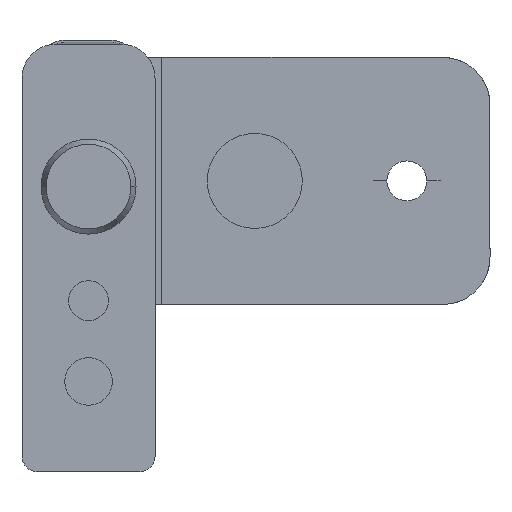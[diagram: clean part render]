
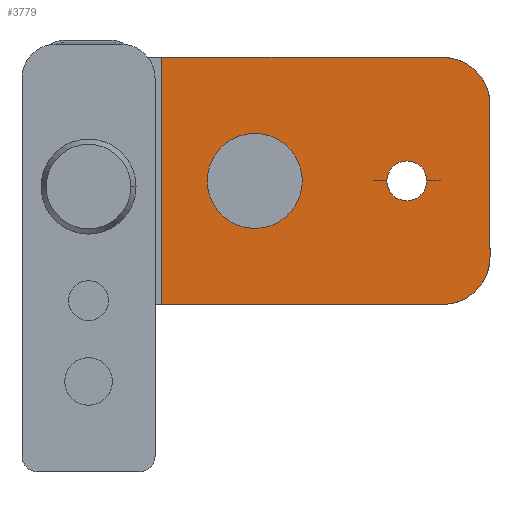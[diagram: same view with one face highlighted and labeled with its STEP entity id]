
A CAD part, front view. The second image highlights one B-rep face of the part: STEP entity #3779.
In plain terms, the highlighted planar face has unit normal (0, -1, 0).
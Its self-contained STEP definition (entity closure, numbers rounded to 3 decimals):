
#152 = VERTEX_POINT ( 'NONE', #1148 ) ;
#160 = VERTEX_POINT ( 'NONE', #1156 ) ;
#167 = VERTEX_POINT ( 'NONE', #1163 ) ;
#176 = VERTEX_POINT ( 'NONE', #957 ) ;
#189 = VERTEX_POINT ( 'NONE', #970 ) ;
#201 = CARTESIAN_POINT ( 'NONE',  ( 42.25, 447., 13.6 ) ) ;
#202 = DIRECTION ( 'NONE',  ( 0., 0., -1. ) ) ;
#473 = CARTESIAN_POINT ( 'NONE',  ( 33.5, 447., 0.6 ) ) ;
#474 = DIRECTION ( 'NONE',  ( 0., -1., 0. ) ) ;
#475 = DIRECTION ( 'NONE',  ( 1., 0., 0. ) ) ;
#476 = CARTESIAN_POINT ( 'NONE',  ( 37.25, 447., 8.6 ) ) ;
#477 = DIRECTION ( 'NONE',  ( 0., 1., 0. ) ) ;
#478 = DIRECTION ( 'NONE',  ( 1., 0., 0. ) ) ;
#479 = CARTESIAN_POINT ( 'NONE',  ( 7.7, 447., 13.6 ) ) ;
#480 = DIRECTION ( 'NONE',  ( 0., 0., -1. ) ) ;
#481 = CARTESIAN_POINT ( 'NONE',  ( 42.25, 447., -12.4 ) ) ;
#482 = DIRECTION ( 'NONE',  ( -1., 0., 0. ) ) ;
#530 = CARTESIAN_POINT ( 'NONE',  ( 33.5, 447., 0.6 ) ) ;
#531 = DIRECTION ( 'NONE',  ( 0., -1., 0. ) ) ;
#532 = DIRECTION ( 'NONE',  ( 1., 0., 0. ) ) ;
#957 = CARTESIAN_POINT ( 'NONE',  ( 7.7, 447., 13.6 ) ) ;
#970 = CARTESIAN_POINT ( 'NONE',  ( 37.25, 447., 13.6 ) ) ;
#1029 = VECTOR ( 'NONE', #482, 1000. ) ;
#1030 = LINE ( 'NONE', #481, #1029 ) ;
#1031 = VECTOR ( 'NONE', #480, 1000. ) ;
#1032 = CIRCLE ( 'NONE', #2633, 5. ) ;
#1033 = LINE ( 'NONE', #479, #1031 ) ;
#1034 = CIRCLE ( 'NONE', #2632, 2.1 ) ;
#1038 = CIRCLE ( 'NONE', #2631, 2.1 ) ;
#1148 = CARTESIAN_POINT ( 'NONE',  ( 42.25, 447., 8.6 ) ) ;
#1156 = CARTESIAN_POINT ( 'NONE',  ( 42.25, 447., -7.4 ) ) ;
#1163 = CARTESIAN_POINT ( 'NONE',  ( 7.7, 447., -12.4 ) ) ;
#1259 = EDGE_CURVE ( 'NONE', #1602, #1487, #1038, .T. ) ;
#1313 = EDGE_CURVE ( 'NONE', #1487, #1602, #1034, .T. ) ;
#1314 = EDGE_CURVE ( 'NONE', #189, #152, #1032, .T. ) ;
#1315 = EDGE_CURVE ( 'NONE', #176, #167, #1033, .T. ) ;
#1316 = EDGE_CURVE ( 'NONE', #3344, #167, #1030, .T. ) ;
#1487 = VERTEX_POINT ( 'NONE', #4044 ) ;
#1547 = CARTESIAN_POINT ( 'NONE',  ( 37.25, 447., -12.4 ) ) ;
#1602 = VERTEX_POINT ( 'NONE', #4089 ) ;
#1686 = CIRCLE ( 'NONE', #2647, 5. ) ;
#1695 = LINE ( 'NONE', #2579, #1696 ) ;
#1696 = VECTOR ( 'NONE', #2580, 1000. ) ;
#1819 = FACE_BOUND ( 'NONE', #3622, .T. ) ;
#1820 = FACE_OUTER_BOUND ( 'NONE', #3621, .T. ) ;
#2089 = LINE ( 'NONE', #201, #2090 ) ;
#2090 = VECTOR ( 'NONE', #202, 1000. ) ;
#2565 = CARTESIAN_POINT ( 'NONE',  ( 37.25, 447., -7.4 ) ) ;
#2566 = DIRECTION ( 'NONE',  ( 0., 1., 0. ) ) ;
#2567 = DIRECTION ( 'NONE',  ( 1., 0., 0. ) ) ;
#2579 = CARTESIAN_POINT ( 'NONE',  ( 42.25, 447., 13.6 ) ) ;
#2580 = DIRECTION ( 'NONE',  ( -1., 0., 0. ) ) ;
#2597 = EDGE_CURVE ( 'NONE', #160, #3344, #1686, .T. ) ;
#2603 = EDGE_CURVE ( 'NONE', #189, #176, #1695, .T. ) ;
#2631 = AXIS2_PLACEMENT_3D ( 'NONE', #530, #531, #532 ) ;
#2632 = AXIS2_PLACEMENT_3D ( 'NONE', #473, #474, #475 ) ;
#2633 = AXIS2_PLACEMENT_3D ( 'NONE', #476, #477, #478 ) ;
#2647 = AXIS2_PLACEMENT_3D ( 'NONE', #2565, #2566, #2567 ) ;
#2669 = AXIS2_PLACEMENT_3D ( 'NONE', #3911, #3912, #3913 ) ;
#3344 = VERTEX_POINT ( 'NONE', #1547 ) ;
#3621 = EDGE_LOOP ( 'NONE', ( #4345, #4344, #4343, #4342, #4341, #4340 ) ) ;
#3622 = EDGE_LOOP ( 'NONE', ( #4347, #4346 ) ) ;
#3779 = ADVANCED_FACE ( 'NONE', ( #1819, #1820 ), #3910, .F. ) ;
#3910 = PLANE ( 'NONE',  #2669 ) ;
#3911 = CARTESIAN_POINT ( 'NONE',  ( 42.25, 447., 13.6 ) ) ;
#3912 = DIRECTION ( 'NONE',  ( 0., 1., 0. ) ) ;
#3913 = DIRECTION ( 'NONE',  ( 1., 0., 0. ) ) ;
#4044 = CARTESIAN_POINT ( 'NONE',  ( 31.4, 447., 0.6 ) ) ;
#4089 = CARTESIAN_POINT ( 'NONE',  ( 35.6, 447., 0.6 ) ) ;
#4340 = ORIENTED_EDGE ( 'NONE', *, *, #2597, .F. ) ;
#4341 = ORIENTED_EDGE ( 'NONE', *, *, #1316, .F. ) ;
#4342 = ORIENTED_EDGE ( 'NONE', *, *, #1315, .T. ) ;
#4343 = ORIENTED_EDGE ( 'NONE', *, *, #2603, .T. ) ;
#4344 = ORIENTED_EDGE ( 'NONE', *, *, #1314, .F. ) ;
#4345 = ORIENTED_EDGE ( 'NONE', *, *, #4533, .F. ) ;
#4346 = ORIENTED_EDGE ( 'NONE', *, *, #1313, .F. ) ;
#4347 = ORIENTED_EDGE ( 'NONE', *, *, #1259, .F. ) ;
#4533 = EDGE_CURVE ( 'NONE', #152, #160, #2089, .T. ) ;
